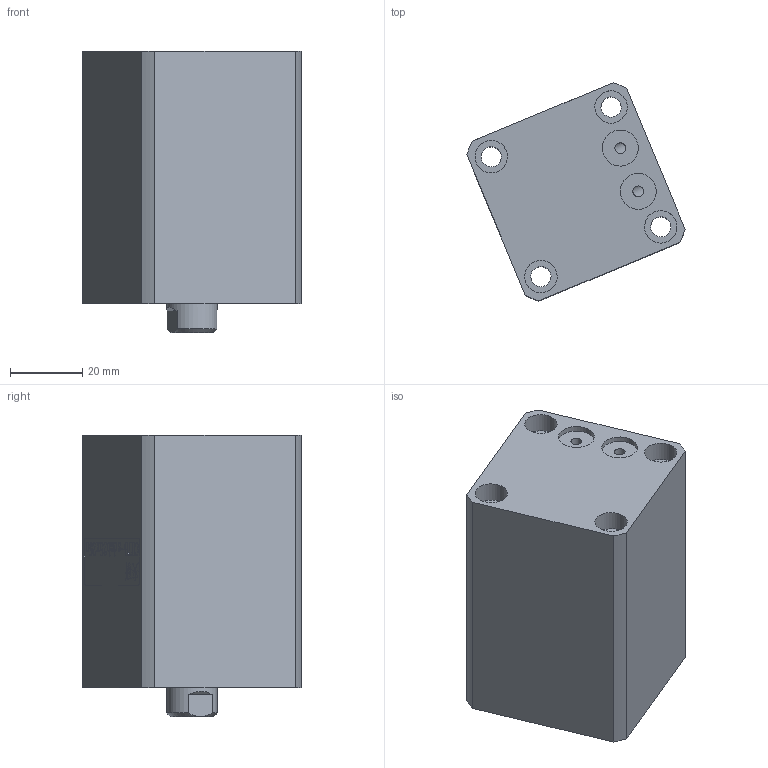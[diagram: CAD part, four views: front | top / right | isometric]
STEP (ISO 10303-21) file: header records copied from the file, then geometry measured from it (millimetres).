
FILE_DESCRIPTION(/* description */ (''),/* implementation_level */ '2;1');
FILE_NAME(/* name */ 'CHTB-sdmb25x25n.stp',/* time_stamp */ '2022-04-29T15:05:47+08:00',/* author */ (''),/* organization */ (''),/* preprocessor_version */ 'ST-DEVELOPER v16.7',/* originating_system */ 'SIEMENS PLM Software NX 12.0',/* authorisation */ '');
FILE_SCHEMA (('AUTOMOTIVE_DESIGN { 1 0 10303 214 3 1 1 1 }'));
Length unit declared in the file: millimetre
Products named in the file (1): CHTB-sdmb25x25n
Bounding box: 60.55 x 60.55 x 78 mm (x, y, z)
Volume: 140923.2 mm3; surface area: 39539.8 mm2
Topology: 3 solids, 3 shells, 478 faces, 1281 edges, 854 vertices
Faces by surface type: plane 307, extrusion 114, cylinder 43, bspline 8, cone 5, torus 1
Full cylindrical faces by diameter (mm): 3 x4, 4 x2, 5.6 x4, 8.5 x1, 9 x8, 10 x2, 14 x2, 21 x2, 23 x2, 25 x5, 31 x1
Entity records: 22070 total; most frequent: CARTESIAN_POINT 8002, ORIENTED_EDGE 2452, DIRECTION 1877, EDGE_CURVE 1226, VECTOR 997, LINE 883, VERTEX_POINT 840, EDGE_LOOP 577
